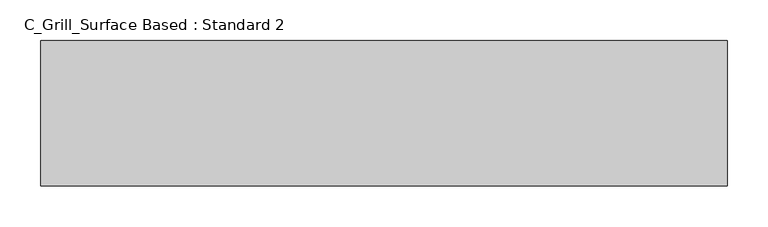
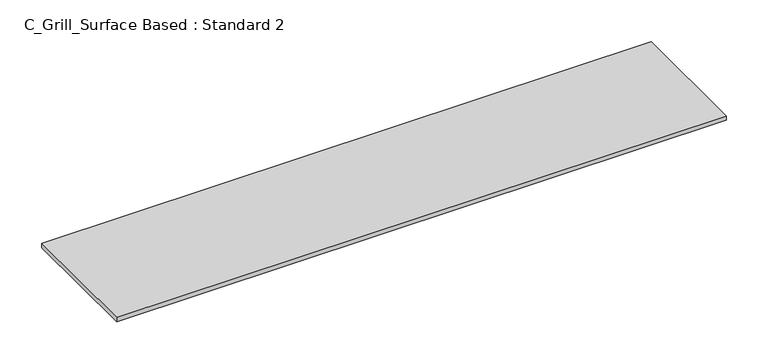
"""IFC4 building model written with IfcOpenShell, lengths in millimetres: air terminal geometry, C_Grill_Surface Based : Standard 2."""

from ifc_helpers import new_model, si_unit, origin, origin_with_axes, place, context, project, spatial, polyline, outline, extrude, source, transform, mapped, element, save


def c_grill_surface_based_standard_2_2f876657(model_context):
    return source(origin(), model_context, "Body", "SweptSolid", [
        extrude(outline(polyline([(419.1, 88.9), (419.1, -88.9), (-419.1, -88.9), (-419.1, 88.9), (419.1, 88.9)])), origin_with_axes(), (0.0, 0.0, 1.0), 6.35),
    ])


if __name__ == "__main__":
    model = new_model("IFC4")
    model_context = context("Model", 3, world=origin())
    ifc_project = project(units=[si_unit("LENGTHUNIT", "METRE", prefix="MILLI")], contexts=[model_context])
    site = spatial("IfcSite", under=ifc_project)
    building = spatial("IfcBuilding", under=site)
    placement = place(None, origin())
    c_grill_surface_based_standard_2_shape = c_grill_surface_based_standard_2_2f876657(model_context)
    element("IfcAirTerminal", 1, ObjectType="C_Grill_Surface Based : Standard 2", at=placement, inside=building, context=model_context, shape_type="MappedRepresentation", body=[
        mapped(c_grill_surface_based_standard_2_shape, transform((0.0, 0.0, 0.0), x_axis=(1.0, 0.0, 0.0), y_axis=(0.0, 1.0, 0.0), z_axis=(0.0, 0.0, 1.0))),
    ])
    save(model, "model.ifc")
